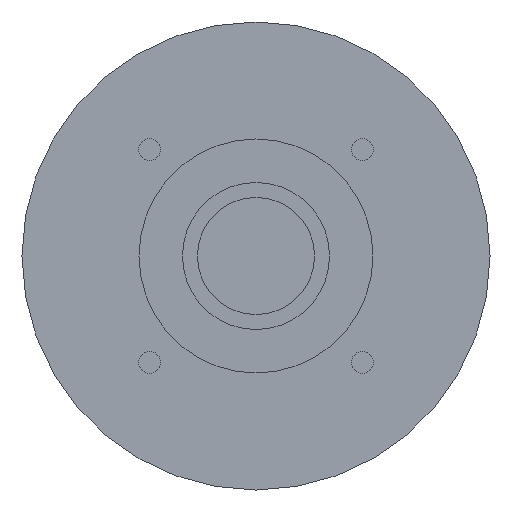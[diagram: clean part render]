
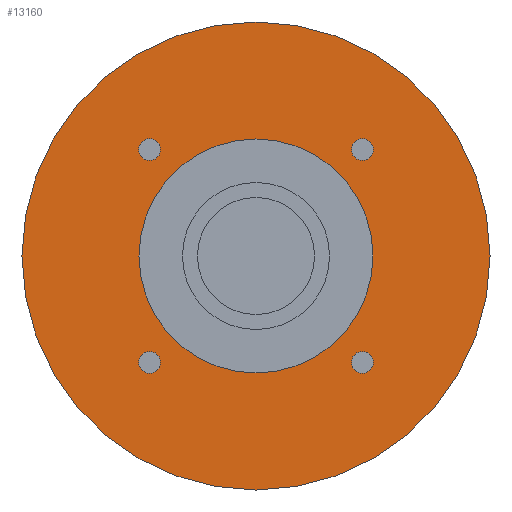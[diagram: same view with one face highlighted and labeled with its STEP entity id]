
A CAD part, left-side view. The second image highlights one B-rep face of the part: STEP entity #13160.
In plain terms, the highlighted planar face has unit normal (-1, 0, 0) as drawn and (0, 0, -1) by its records, which use the part's own axes.
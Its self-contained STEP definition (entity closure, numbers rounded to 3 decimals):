
#10060=CARTESIAN_POINT('',(-70.,0.,-79.7));
#10070=VERTEX_POINT('',#10060);
#10100=CARTESIAN_POINT('',(0.,0.,
-79.7));
#10110=DIRECTION('',(0.,0.,-1.));
#10120=DIRECTION('',(0.,-1.,0.));
#10130=AXIS2_PLACEMENT_3D('',#10100,#10110,#10120);
#10140=CIRCLE('',#10130,70.);
#10150=CARTESIAN_POINT('',(70.,0.,-79.7));
#10160=VERTEX_POINT('',#10150);
#10170=EDGE_CURVE('',#10070,#10160,#10140,.T.);
#12100=CARTESIAN_POINT('',(-28.57,31.82,-79.7));
#12110=VERTEX_POINT('',#12100);
#12140=CARTESIAN_POINT('',(-31.82,31.82,-79.7));
#12150=DIRECTION('',(0.,0.,-1.));
#12160=DIRECTION('',(-1.,0.,0.));
#12170=AXIS2_PLACEMENT_3D('',#12140,#12150,#12160);
#12180=CIRCLE('',#12170,3.25);
#12190=CARTESIAN_POINT('',(-35.07,31.82,-79.7));
#12200=VERTEX_POINT('',#12190);
#12210=EDGE_CURVE('',#12200,#12110,#12180,.T.);
#12330=CARTESIAN_POINT('',(0.,0.,
-79.7));
#12340=DIRECTION('',(0.,0.,-1.));
#12350=DIRECTION('',(1.,0.,0.));
#12360=AXIS2_PLACEMENT_3D('',#12330,#12340,#12350);
#12370=PLANE('',#12360);
#12380=ORIENTED_EDGE('',*,*,#12210,.F.);
#12390=EDGE_CURVE('',#12110,#12200,#12180,.T.);
#12400=ORIENTED_EDGE('',*,*,#12390,.F.);
#12410=EDGE_LOOP('',(#12400,#12380));
#12420=FACE_BOUND('',#12410,.T.);
#12430=CARTESIAN_POINT('',(-31.82,-31.82,-79.7));
#12440=DIRECTION('',(0.,0.,-1.));
#12450=DIRECTION('',(0.,-1.,0.));
#12460=AXIS2_PLACEMENT_3D('',#12430,#12440,#12450);
#12470=CIRCLE('',#12460,3.25);
#12480=CARTESIAN_POINT('',(-31.82,-35.07,-79.7));
#12490=VERTEX_POINT('',#12480);
#12500=CARTESIAN_POINT('',(-31.82,-28.57,-79.7));
#12510=VERTEX_POINT('',#12500);
#12520=EDGE_CURVE('',#12490,#12510,#12470,.T.);
#12530=ORIENTED_EDGE('',*,*,#12520,.F.);
#12540=EDGE_CURVE('',#12510,#12490,#12470,.T.);
#12550=ORIENTED_EDGE('',*,*,#12540,.F.);
#12560=EDGE_LOOP('',(#12550,#12530));
#12570=FACE_BOUND('',#12560,.T.);
#12580=CARTESIAN_POINT('',(0.,0.,
-79.7));
#12590=DIRECTION('',(0.,0.,1.));
#12600=DIRECTION('',(0.,1.,0.));
#12610=AXIS2_PLACEMENT_3D('',#12580,#12590,#12600);
#12620=CIRCLE('',#12610,35.);
#12630=CARTESIAN_POINT('',(-35.,0.,-79.7));
#12640=VERTEX_POINT('',#12630);
#12650=CARTESIAN_POINT('',(35.,0.,-79.7));
#12660=VERTEX_POINT('',#12650);
#12670=EDGE_CURVE('',#12640,#12660,#12620,.T.);
#12680=ORIENTED_EDGE('',*,*,#12670,.T.);
#12690=CARTESIAN_POINT('',(0.,35.,-79.7));
#12700=VERTEX_POINT('',#12690);
#12710=EDGE_CURVE('',#12700,#12640,#12620,.T.);
#12720=ORIENTED_EDGE('',*,*,#12710,.T.);
#12730=EDGE_CURVE('',#12660,#12700,#12620,.T.);
#12740=ORIENTED_EDGE('',*,*,#12730,.T.);
#12750=EDGE_LOOP('',(#12740,#12720,#12680));
#12760=FACE_BOUND('',#12750,.T.);
#12770=CARTESIAN_POINT('',(31.82,-31.82,-79.7));
#12780=DIRECTION('',(0.,0.,-1.));
#12790=DIRECTION('',(1.,0.,0.));
#12800=AXIS2_PLACEMENT_3D('',#12770,#12780,#12790);
#12810=CIRCLE('',#12800,3.25);
#12820=CARTESIAN_POINT('',(35.07,-31.82,-79.7));
#12830=VERTEX_POINT('',#12820);
#12840=CARTESIAN_POINT('',(28.57,-31.82,-79.7));
#12850=VERTEX_POINT('',#12840);
#12860=EDGE_CURVE('',#12830,#12850,#12810,.T.);
#12870=ORIENTED_EDGE('',*,*,#12860,.F.);
#12880=EDGE_CURVE('',#12850,#12830,#12810,.T.);
#12890=ORIENTED_EDGE('',*,*,#12880,.F.);
#12900=EDGE_LOOP('',(#12890,#12870));
#12910=FACE_BOUND('',#12900,.T.);
#12920=CARTESIAN_POINT('',(31.82,31.82,-79.7));
#12930=DIRECTION('',(0.,0.,-1.));
#12940=DIRECTION('',(0.,1.,0.));
#12950=AXIS2_PLACEMENT_3D('',#12920,#12930,#12940);
#12960=CIRCLE('',#12950,3.25);
#12970=CARTESIAN_POINT('',(31.82,35.07,-79.7));
#12980=VERTEX_POINT('',#12970);
#12990=CARTESIAN_POINT('',(31.82,28.57,-79.7));
#13000=VERTEX_POINT('',#12990);
#13010=EDGE_CURVE('',#12980,#13000,#12960,.T.);
#13020=ORIENTED_EDGE('',*,*,#13010,.F.);
#13030=EDGE_CURVE('',#13000,#12980,#12960,.T.);
#13040=ORIENTED_EDGE('',*,*,#13030,.F.);
#13050=EDGE_LOOP('',(#13040,#13020));
#13060=FACE_BOUND('',#13050,.T.);
#13070=ORIENTED_EDGE('',*,*,#10170,.T.);
#13080=CARTESIAN_POINT('',(0.,-70.,-79.7));
#13090=VERTEX_POINT('',#13080);
#13100=EDGE_CURVE('',#13090,#10070,#10140,.T.);
#13110=ORIENTED_EDGE('',*,*,#13100,.T.);
#13120=EDGE_CURVE('',#10160,#13090,#10140,.T.);
#13130=ORIENTED_EDGE('',*,*,#13120,.T.);
#13140=EDGE_LOOP('',(#13130,#13110,#13070));
#13150=FACE_OUTER_BOUND('',#13140,.T.);
#13160=ADVANCED_FACE('',(#12420,#12570,#12760,#12910,#13060,#13150),
#12370,.T.);
